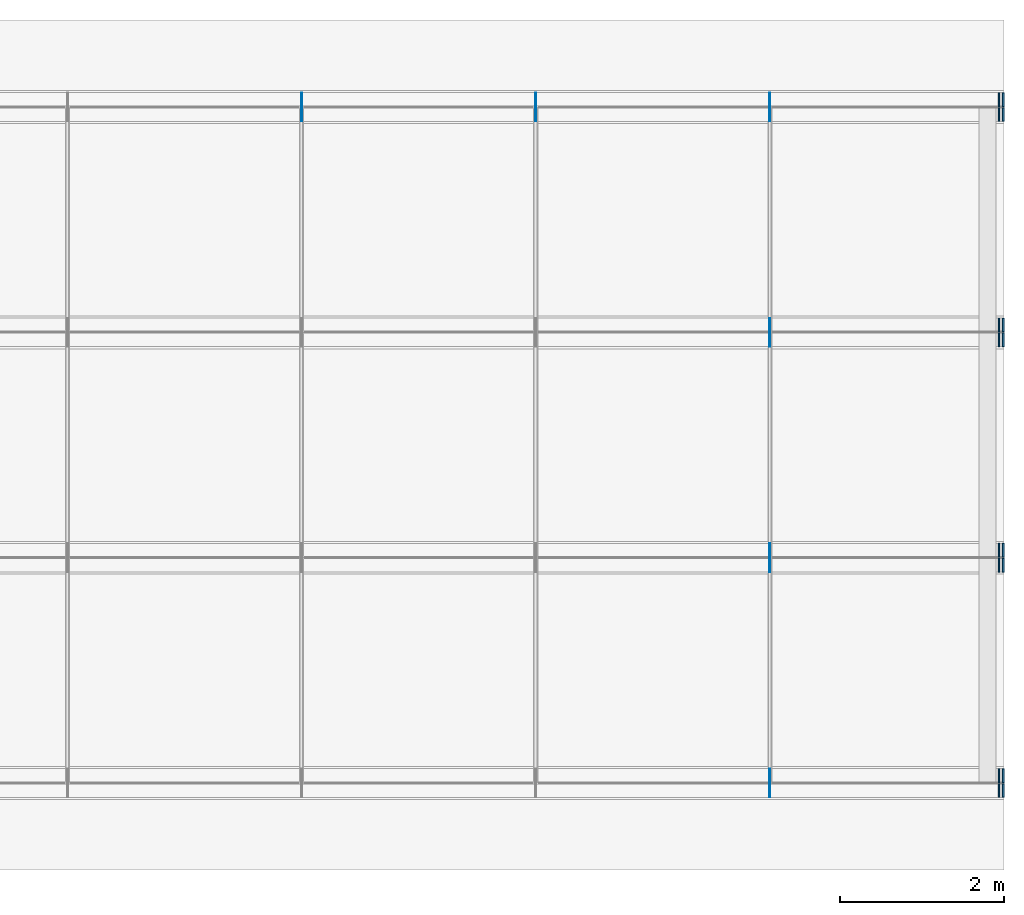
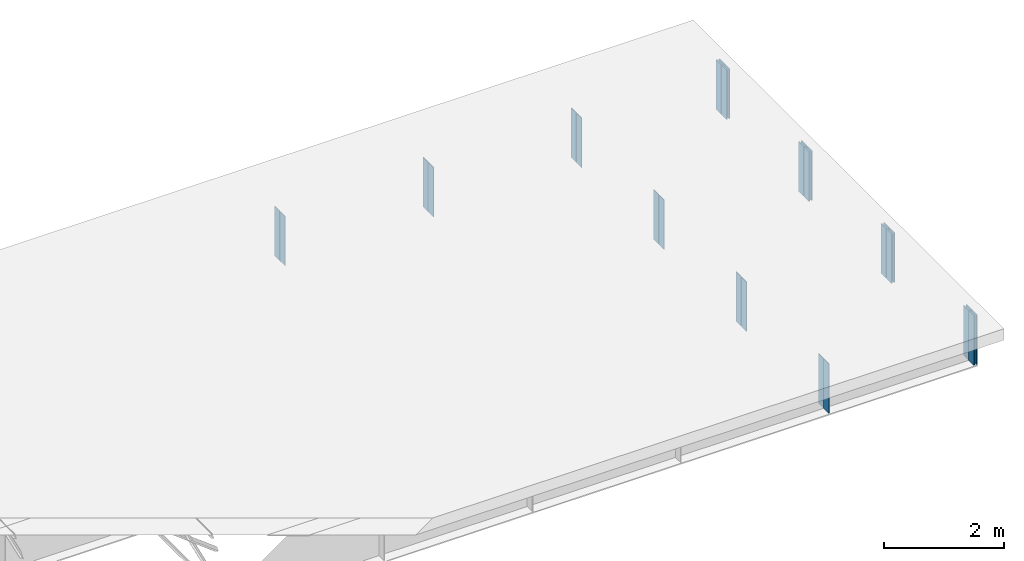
# One storey, part 12 of 12: 28 plates.
"""IFC4 building model written with IfcOpenShell, lengths in metres."""

from ifc_helpers import new_model, si_unit, frame, origin, origin_with_axes, origin_2d_with_axis, place, context, subcontext, project, spatial, rectangle, extrude, element, save


model = new_model("IFC4")

# Units and contexts
model_context = context("Model", 3, precision=1e-05, world=origin())
body_context = subcontext(model_context, "Body", "Model", "MODEL_VIEW")
ifc_project = project(units=[si_unit("LENGTHUNIT", "METRE"), si_unit("AREAUNIT", "SQUARE_METRE"), si_unit("VOLUMEUNIT", "CUBIC_METRE"), si_unit("PLANEANGLEUNIT", "RADIAN")], contexts=[model_context])

# Site, building, storey
site_placement = place(None, origin_with_axes())
site = spatial("IfcSite", under=ifc_project, at=site_placement, Name="Default Site")
building_placement = place(site_placement, origin_with_axes())
building = spatial("IfcBuilding", under=site, at=building_placement, Name="Bridge Structure")
storey_placement = place(building_placement, origin_with_axes())
storey = spatial("IfcBuildingStorey", under=building, at=storey_placement, Name="Superstructure")

# Plates
for number, where, z_axis, x_axis, name in (
    (1, (17.142, -4.0345, -0.505), (0.0, 0.0, 1.0), (1.0, 0.0, 0.0), "Intermediate Stiffener 1"),
    (2, (17.142, -4.2155000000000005, -0.505), (0.0, 0.0, 1.0), (1.0, 0.0, 0.0), "Intermediate Stiffener 1"),
):
    element("IfcPlate", number, at=place(storey_placement, frame(where, z_axis=z_axis, x_axis=x_axis)), inside=storey, Name=name, context=body_context, shape_type="SweptSolid", body=[
        extrude(rectangle(XDim=0.012, YDim=0.169, at=origin_2d_with_axis()), origin_with_axes(), (0.0, 0.0, 1.0), 1.01),
    ])
for number, where, z_axis, x_axis, name in (
    (3, (19.990000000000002, -4.0345, -0.505), (0.0, 0.0, 1.0), (1.0, 0.0, 0.0), "End Stiffener 1"),
    (4, (19.990000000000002, -4.2155000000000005, -0.505), (0.0, 0.0, 1.0), (1.0, 0.0, 0.0), "End Stiffener 1"),
    (5, (19.94, -4.0345, -0.505), (0.0, 0.0, 1.0), (1.0, 0.0, 0.0), "End Stiffener 1"),
    (6, (19.94, -4.2155000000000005, -0.505), (0.0, 0.0, 1.0), (1.0, 0.0, 0.0), "End Stiffener 1"),
):
    element("IfcPlate", number, at=place(storey_placement, frame(where, z_axis=z_axis, x_axis=x_axis)), inside=storey, Name=name, context=body_context, shape_type="SweptSolid", body=[
        extrude(rectangle(XDim=0.02, YDim=0.169, at=origin_2d_with_axis()), origin_with_axes(), (0.0, 0.0, 1.0), 1.01),
    ])
for number, where, z_axis, x_axis, name in (
    (7, (17.142, -1.2845, -0.505), (0.0, 0.0, 1.0), (1.0, 0.0, 0.0), "Intermediate Stiffener 2"),
    (8, (17.142, -1.4655, -0.505), (0.0, 0.0, 1.0), (1.0, 0.0, 0.0), "Intermediate Stiffener 2"),
):
    element("IfcPlate", number, at=place(storey_placement, frame(where, z_axis=z_axis, x_axis=x_axis)), inside=storey, Name=name, context=body_context, shape_type="SweptSolid", body=[
        extrude(rectangle(XDim=0.012, YDim=0.169, at=origin_2d_with_axis()), origin_with_axes(), (0.0, 0.0, 1.0), 1.01),
    ])
for number, where, z_axis, x_axis, name in (
    (9, (19.990000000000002, -1.2845, -0.505), (0.0, 0.0, 1.0), (1.0, 0.0, 0.0), "End Stiffener 2"),
    (10, (19.990000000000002, -1.4655, -0.505), (0.0, 0.0, 1.0), (1.0, 0.0, 0.0), "End Stiffener 2"),
    (11, (19.94, -1.2845, -0.505), (0.0, 0.0, 1.0), (1.0, 0.0, 0.0), "End Stiffener 2"),
    (12, (19.94, -1.4655, -0.505), (0.0, 0.0, 1.0), (1.0, 0.0, 0.0), "End Stiffener 2"),
):
    element("IfcPlate", number, at=place(storey_placement, frame(where, z_axis=z_axis, x_axis=x_axis)), inside=storey, Name=name, context=body_context, shape_type="SweptSolid", body=[
        extrude(rectangle(XDim=0.02, YDim=0.169, at=origin_2d_with_axis()), origin_with_axes(), (0.0, 0.0, 1.0), 1.01),
    ])
for number, where, z_axis, x_axis, name in (
    (13, (17.142, 1.4655, -0.505), (0.0, 0.0, 1.0), (1.0, 0.0, 0.0), "Intermediate Stiffener 3"),
    (14, (17.142, 1.2845, -0.505), (0.0, 0.0, 1.0), (1.0, 0.0, 0.0), "Intermediate Stiffener 3"),
):
    element("IfcPlate", number, at=place(storey_placement, frame(where, z_axis=z_axis, x_axis=x_axis)), inside=storey, Name=name, context=body_context, shape_type="SweptSolid", body=[
        extrude(rectangle(XDim=0.012, YDim=0.169, at=origin_2d_with_axis()), origin_with_axes(), (0.0, 0.0, 1.0), 1.01),
    ])
for number, where, z_axis, x_axis, name in (
    (15, (19.990000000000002, 1.4655, -0.505), (0.0, 0.0, 1.0), (1.0, 0.0, 0.0), "End Stiffener 3"),
    (16, (19.990000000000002, 1.2845, -0.505), (0.0, 0.0, 1.0), (1.0, 0.0, 0.0), "End Stiffener 3"),
    (17, (19.94, 1.4655, -0.505), (0.0, 0.0, 1.0), (1.0, 0.0, 0.0), "End Stiffener 3"),
    (18, (19.94, 1.2845, -0.505), (0.0, 0.0, 1.0), (1.0, 0.0, 0.0), "End Stiffener 3"),
):
    element("IfcPlate", number, at=place(storey_placement, frame(where, z_axis=z_axis, x_axis=x_axis)), inside=storey, Name=name, context=body_context, shape_type="SweptSolid", body=[
        extrude(rectangle(XDim=0.02, YDim=0.169, at=origin_2d_with_axis()), origin_with_axes(), (0.0, 0.0, 1.0), 1.01),
    ])
for number, where, z_axis, x_axis, name in (
    (19, (11.428, 4.2155000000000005, -0.505), (0.0, 0.0, 1.0), (1.0, 0.0, 0.0), "Intermediate Stiffener 4"),
    (20, (11.428, 4.0345, -0.505), (0.0, 0.0, 1.0), (1.0, 0.0, 0.0), "Intermediate Stiffener 4"),
    (21, (14.285, 4.2155000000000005, -0.505), (0.0, 0.0, 1.0), (1.0, 0.0, 0.0), "Intermediate Stiffener 4"),
    (22, (14.285, 4.0345, -0.505), (0.0, 0.0, 1.0), (1.0, 0.0, 0.0), "Intermediate Stiffener 4"),
    (23, (17.142, 4.2155000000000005, -0.505), (0.0, 0.0, 1.0), (1.0, 0.0, 0.0), "Intermediate Stiffener 4"),
    (24, (17.142, 4.0345, -0.505), (0.0, 0.0, 1.0), (1.0, 0.0, 0.0), "Intermediate Stiffener 4"),
):
    element("IfcPlate", number, at=place(storey_placement, frame(where, z_axis=z_axis, x_axis=x_axis)), inside=storey, Name=name, context=body_context, shape_type="SweptSolid", body=[
        extrude(rectangle(XDim=0.012, YDim=0.169, at=origin_2d_with_axis()), origin_with_axes(), (0.0, 0.0, 1.0), 1.01),
    ])
for number, where, z_axis, x_axis, name in (
    (25, (19.990000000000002, 4.2155000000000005, -0.505), (0.0, 0.0, 1.0), (1.0, 0.0, 0.0), "End Stiffener 4"),
    (26, (19.990000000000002, 4.0345, -0.505), (0.0, 0.0, 1.0), (1.0, 0.0, 0.0), "End Stiffener 4"),
    (27, (19.94, 4.2155000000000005, -0.505), (0.0, 0.0, 1.0), (1.0, 0.0, 0.0), "End Stiffener 4"),
    (28, (19.94, 4.0345, -0.505), (0.0, 0.0, 1.0), (1.0, 0.0, 0.0), "End Stiffener 4"),
):
    element("IfcPlate", number, at=place(storey_placement, frame(where, z_axis=z_axis, x_axis=x_axis)), inside=storey, Name=name, context=body_context, shape_type="SweptSolid", body=[
        extrude(rectangle(XDim=0.02, YDim=0.169, at=origin_2d_with_axis()), origin_with_axes(), (0.0, 0.0, 1.0), 1.01),
    ])

save(model, "model.ifc")
